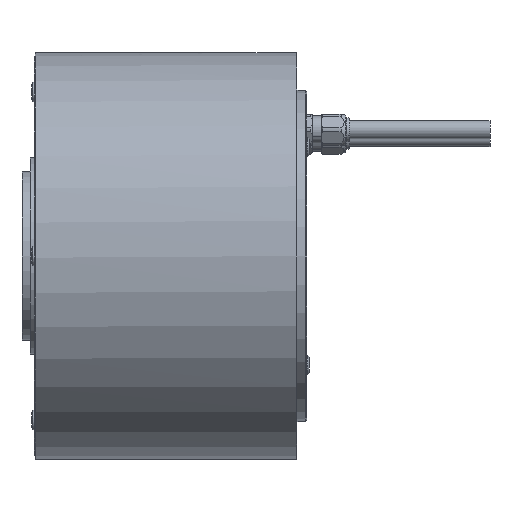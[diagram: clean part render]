
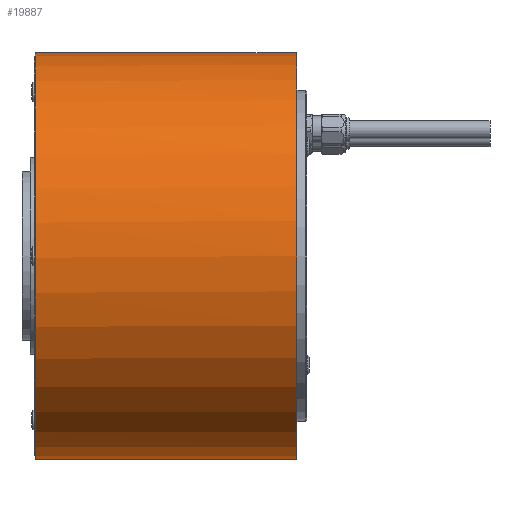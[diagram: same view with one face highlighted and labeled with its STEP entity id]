
A CAD part, left-side view. The second image highlights one B-rep face of the part: STEP entity #19887.
In plain terms, the highlighted cylindrical face has radius 72.5 mm (diameter 145 mm), a partial arc.
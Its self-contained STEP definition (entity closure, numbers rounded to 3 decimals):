
#295 = AXIS2_PLACEMENT_3D ( 'NONE', #3681, #11409, #3588 ) ;
#685 = LINE ( 'NONE', #775, #1823 ) ;
#775 = CARTESIAN_POINT ( 'NONE',  ( 0., -96.2, -72.5 ) ) ;
#864 = CARTESIAN_POINT ( 'NONE',  ( -2.951, -76.902, 72.44 ) ) ;
#884 = AXIS2_PLACEMENT_3D ( 'NONE', #15133, #8506, #10138 ) ;
#1063 = CARTESIAN_POINT ( 'NONE',  ( 0., -78.6, 72.5 ) ) ;
#1238 = CARTESIAN_POINT ( 'NONE',  ( -0.881, -71.909, 72.495 ) ) ;
#1534 = CARTESIAN_POINT ( 'NONE',  ( -2.075, -72.498, 72.471 ) ) ;
#1679 = CARTESIAN_POINT ( 'NONE',  ( -3.292, -76.08, 72.425 ) ) ;
#1774 = CARTESIAN_POINT ( 'NONE',  ( -3.056, -76.707, 72.436 ) ) ;
#1805 = VECTOR ( 'NONE', #11111, 1000. ) ;
#1823 = VECTOR ( 'NONE', #16316, 1000. ) ;
#1976 = CYLINDRICAL_SURFACE ( 'NONE', #295, 72.5 ) ;
#2015 = CARTESIAN_POINT ( 'NONE',  ( 0., -93.2, 72.5 ) ) ;
#2022 = CARTESIAN_POINT ( 'NONE',  ( -1.25, 0., 72.489 ) ) ;
#2135 = ORIENTED_EDGE ( 'NONE', *, *, #18629, .T. ) ;
#2166 = EDGE_CURVE ( 'NONE', #19135, #19944, #19342, .T. ) ;
#2493 = VECTOR ( 'NONE', #17709, 1000. ) ;
#2538 = EDGE_CURVE ( 'NONE', #5549, #13158, #10268, .T. ) ;
#2561 = CARTESIAN_POINT ( 'NONE',  ( 0., -71.8, 72.5 ) ) ;
#2677 = EDGE_CURVE ( 'NONE', #14153, #17661, #8660, .T. ) ;
#3151 = CARTESIAN_POINT ( 'NONE',  ( -3.4, -75.2, 72.42 ) ) ;
#3252 = CARTESIAN_POINT ( 'NONE',  ( -3.4, -74.976, 72.42 ) ) ;
#3588 = DIRECTION ( 'NONE',  ( 0., 0., 1. ) ) ;
#3681 = CARTESIAN_POINT ( 'NONE',  ( 0., -96.2, 0. ) ) ;
#3903 = CARTESIAN_POINT ( 'NONE',  ( -0.449, -78.6, 72.5 ) ) ;
#4084 = CIRCLE ( 'NONE', #5692, 72.5 ) ;
#4501 = ORIENTED_EDGE ( 'NONE', *, *, #14128, .T. ) ;
#4852 = CARTESIAN_POINT ( 'NONE',  ( -2.56, -72.952, 72.455 ) ) ;
#5242 = ORIENTED_EDGE ( 'NONE', *, *, #8758, .F. ) ;
#5272 = CARTESIAN_POINT ( 'NONE',  ( 0., -96.2, 72.5 ) ) ;
#5425 = CARTESIAN_POINT ( 'NONE',  ( 0., -93.2, 0. ) ) ;
#5549 = VERTEX_POINT ( 'NONE', #15088 ) ;
#5692 = AXIS2_PLACEMENT_3D ( 'NONE', #5425, #10103, #8085 ) ;
#6124 = CARTESIAN_POINT ( 'NONE',  ( -3.4, -75.2, 72.42 ) ) ;
#6276 = CARTESIAN_POINT ( 'NONE',  ( -3.055, -73.692, 72.436 ) ) ;
#6329 = CARTESIAN_POINT ( 'NONE',  ( -3.226, -76.295, 72.428 ) ) ;
#6374 = CARTESIAN_POINT ( 'NONE',  ( -3.378, -74.755, 72.421 ) ) ;
#6508 = ORIENTED_EDGE ( 'NONE', *, *, #13718, .F. ) ;
#6853 = DIRECTION ( 'NONE',  ( 0., 1., 0. ) ) ;
#8085 = DIRECTION ( 'NONE',  ( 0., 0., -1. ) ) ;
#8446 = CARTESIAN_POINT ( 'NONE',  ( 0., -93.2, -72.5 ) ) ;
#8506 = DIRECTION ( 'NONE',  ( 0., 1., 0. ) ) ;
#8615 = CARTESIAN_POINT ( 'NONE',  ( 0., -0.2, 72.5 ) ) ;
#8660 = CIRCLE ( 'NONE', #13557, 72.5 ) ;
#8758 = EDGE_CURVE ( 'NONE', #10068, #19944, #15516, .T. ) ;
#8823 = CARTESIAN_POINT ( 'NONE',  ( -0.222, -71.8, 72.5 ) ) ;
#8925 = CARTESIAN_POINT ( 'NONE',  ( -0.443, -71.822, 72.499 ) ) ;
#9004 = VECTOR ( 'NONE', #10708, 1000. ) ;
#9141 = CARTESIAN_POINT ( 'NONE',  ( -2.247, -72.638, 72.465 ) ) ;
#9804 = CARTESIAN_POINT ( 'NONE',  ( 0., -0.2, 0. ) ) ;
#9912 = DIRECTION ( 'NONE',  ( 0., 0., 1. ) ) ;
#10068 = VERTEX_POINT ( 'NONE', #6124 ) ;
#10103 = DIRECTION ( 'NONE',  ( 0., -1., 0. ) ) ;
#10138 = DIRECTION ( 'NONE',  ( 0., 0., 1. ) ) ;
#10268 = CIRCLE ( 'NONE', #884, 72.5 ) ;
#10708 = DIRECTION ( 'NONE',  ( 0., 1., 0. ) ) ;
#10768 = CARTESIAN_POINT ( 'NONE',  ( -2.704, -73.127, 72.45 ) ) ;
#10799 = B_SPLINE_CURVE_WITH_KNOTS ( 'NONE', 3,
 ( #2561, #8823, #8925, #1238, #14037, #15451, #10968, #1534, #9141, #4852, #10768, #13944, #6276, #18625, #11068, #6374, #3252, #3151 ),
 .UNSPECIFIED., .F., .F.,
 ( 4, 2, 2, 2, 2, 2, 2, 2, 4 ),
 ( 0.011, 0.011, 0.012, 0.013, 0.013, 0.014, 0.015, 0.015, 0.016 ),
 .UNSPECIFIED. ) ;
#10968 = CARTESIAN_POINT ( 'NONE',  ( -1.703, -72.249, 72.48 ) ) ;
#11028 = EDGE_CURVE ( 'NONE', #19135, #19957, #4084, .T. ) ;
#11068 = CARTESIAN_POINT ( 'NONE',  ( -3.292, -74.32, 72.425 ) ) ;
#11111 = DIRECTION ( 'NONE',  ( 0., 1., 0. ) ) ;
#11279 = ORIENTED_EDGE ( 'NONE', *, *, #15817, .F. ) ;
#11409 = DIRECTION ( 'NONE',  ( 0., 1., 0. ) ) ;
#11821 = CARTESIAN_POINT ( 'NONE',  ( -1.508, -78.255, 72.485 ) ) ;
#12345 = CARTESIAN_POINT ( 'NONE',  ( -1.25, -0.2, 72.489 ) ) ;
#12809 = CARTESIAN_POINT ( 'NONE',  ( 0., -96.2, 72.5 ) ) ;
#12958 = CARTESIAN_POINT ( 'NONE',  ( -3.4, -75.424, 72.42 ) ) ;
#13049 = CARTESIAN_POINT ( 'NONE',  ( -0.895, -78.51, 72.496 ) ) ;
#13158 = VERTEX_POINT ( 'NONE', #2022 ) ;
#13409 = EDGE_LOOP ( 'NONE', ( #6508, #14778, #18469, #5242, #11279, #2135, #17266, #4501, #13677 ) ) ;
#13557 = AXIS2_PLACEMENT_3D ( 'NONE', #9804, #6853, #9912 ) ;
#13677 = ORIENTED_EDGE ( 'NONE', *, *, #2538, .F. ) ;
#13718 = EDGE_CURVE ( 'NONE', #19957, #5549, #685, .T. ) ;
#13944 = CARTESIAN_POINT ( 'NONE',  ( -2.951, -73.497, 72.44 ) ) ;
#14037 = CARTESIAN_POINT ( 'NONE',  ( -1.096, -71.974, 72.492 ) ) ;
#14128 = EDGE_CURVE ( 'NONE', #14153, #13158, #17135, .T. ) ;
#14153 = VERTEX_POINT ( 'NONE', #12345 ) ;
#14778 = ORIENTED_EDGE ( 'NONE', *, *, #11028, .F. ) ;
#14779 = CARTESIAN_POINT ( 'NONE',  ( -1.706, -78.149, 72.48 ) ) ;
#15088 = CARTESIAN_POINT ( 'NONE',  ( 0., 0., -72.5 ) ) ;
#15133 = CARTESIAN_POINT ( 'NONE',  ( 0., 0., 0. ) ) ;
#15451 = CARTESIAN_POINT ( 'NONE',  ( -1.505, -72.143, 72.485 ) ) ;
#15516 = B_SPLINE_CURVE_WITH_KNOTS ( 'NONE', 3,
 ( #15620, #12958, #19172, #1679, #6329, #1774, #864, #18035, #16104, #17937, #19264, #14779, #11821, #13049, #3903, #1063 ),
 .UNSPECIFIED., .F., .F.,
 ( 4, 2, 2, 2, 2, 2, 2, 4 ),
 ( 0.016, 0.017, 0.017, 0.018, 0.019, 0.019, 0.02, 0.021 ),
 .UNSPECIFIED. ) ;
#15620 = CARTESIAN_POINT ( 'NONE',  ( -3.4, -75.2, 72.42 ) ) ;
#15817 = EDGE_CURVE ( 'NONE', #19463, #10068, #10799, .T. ) ;
#16104 = CARTESIAN_POINT ( 'NONE',  ( -2.562, -77.447, 72.455 ) ) ;
#16316 = DIRECTION ( 'NONE',  ( 0., 1., 0. ) ) ;
#16946 = CARTESIAN_POINT ( 'NONE',  ( 0., -71.8, 72.5 ) ) ;
#17135 = LINE ( 'NONE', #17231, #1805 ) ;
#17231 = CARTESIAN_POINT ( 'NONE',  ( -1.25, -0.2, 72.489 ) ) ;
#17266 = ORIENTED_EDGE ( 'NONE', *, *, #2677, .F. ) ;
#17661 = VERTEX_POINT ( 'NONE', #8615 ) ;
#17709 = DIRECTION ( 'NONE',  ( 0., 1., 0. ) ) ;
#17728 = CARTESIAN_POINT ( 'NONE',  ( 0., -78.6, 72.5 ) ) ;
#17937 = CARTESIAN_POINT ( 'NONE',  ( -2.248, -77.76, 72.465 ) ) ;
#18035 = CARTESIAN_POINT ( 'NONE',  ( -2.705, -77.272, 72.45 ) ) ;
#18469 = ORIENTED_EDGE ( 'NONE', *, *, #2166, .T. ) ;
#18625 = CARTESIAN_POINT ( 'NONE',  ( -3.226, -74.104, 72.428 ) ) ;
#18629 = EDGE_CURVE ( 'NONE', #19463, #17661, #19886, .T. ) ;
#19135 = VERTEX_POINT ( 'NONE', #2015 ) ;
#19172 = CARTESIAN_POINT ( 'NONE',  ( -3.378, -75.646, 72.421 ) ) ;
#19254 = FACE_OUTER_BOUND ( 'NONE', #13409, .T. ) ;
#19264 = CARTESIAN_POINT ( 'NONE',  ( -2.077, -77.901, 72.47 ) ) ;
#19342 = LINE ( 'NONE', #5272, #2493 ) ;
#19463 = VERTEX_POINT ( 'NONE', #16946 ) ;
#19886 = LINE ( 'NONE', #12809, #9004 ) ;
#19887 = ADVANCED_FACE ( 'NONE', ( #19254 ), #1976, .T. ) ;
#19944 = VERTEX_POINT ( 'NONE', #17728 ) ;
#19957 = VERTEX_POINT ( 'NONE', #8446 ) ;
